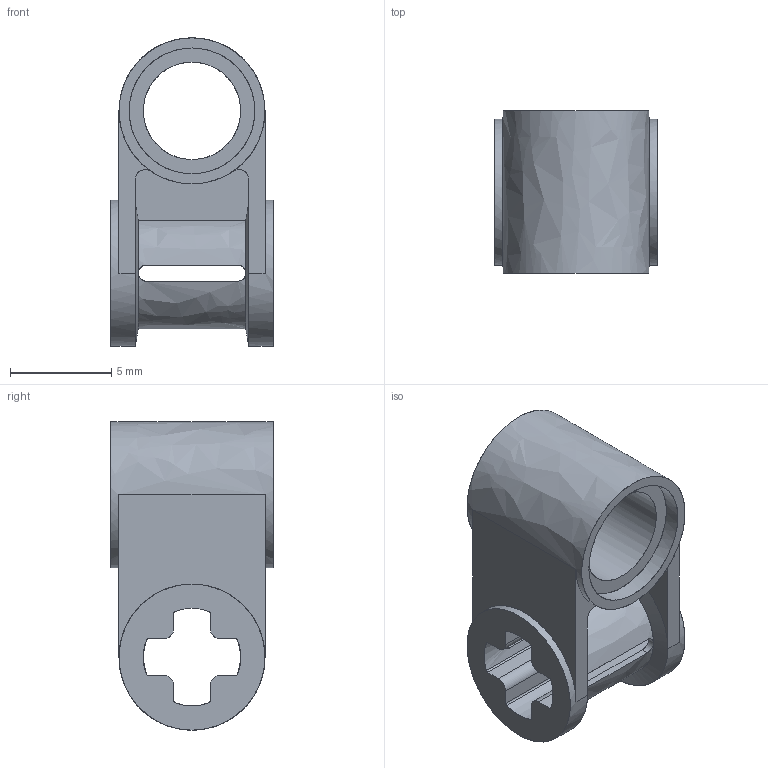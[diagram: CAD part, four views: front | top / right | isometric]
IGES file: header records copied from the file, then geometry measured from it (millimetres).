
Start section: C
Global section: file name: ClGray_4211775_MCM.iges; native system: By Siemens PLM Incorporated; preprocessor: XPlus GENERIC/IGES 26.1.183; author: Author; organization: Title; date: 20250721.235304; units: millimetre
Bounding box: 8 x 8 x 15.2 mm (x, y, z)
Surface area: 780.1 mm2 (no closed solid volume)
Topology: 0 solids, 0 shells, 67 faces, 400 edges, 400 vertices
Faces by surface type: bspline 67
